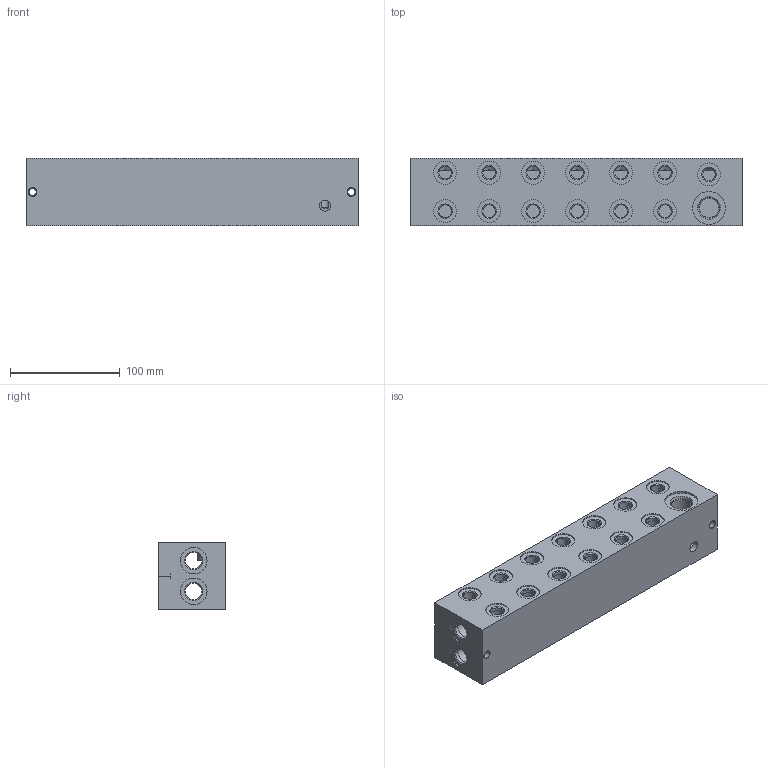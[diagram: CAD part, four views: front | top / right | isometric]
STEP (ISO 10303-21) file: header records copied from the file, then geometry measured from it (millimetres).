
FILE_DESCRIPTION((''),'2;1');
FILE_NAME('760_6960','2015-11-27T',('Ahcz.brigadnik05'),(''),'PRO/ENGINEER BY PARAMETRIC TECHNOLOGY CORPORATION, 2015110','PRO/ENGINEER BY PARAMETRIC TECHNOLOGY CORPORATION, 2015110','');
FILE_SCHEMA(('AUTOMOTIVE_DESIGN { 1 0 10303 214 1 1 1 1 }'));
Length unit declared in the file: millimetre
Products named in the file (1): 760_6960
Bounding box: 302 x 61 x 61 mm (x, y, z)
Volume: 419114.3 mm3; surface area: 166610.9 mm2
Topology: 1 solids, 49 shells, 434 faces, 2164 edges, 2045 vertices
Faces by surface type: cylinder 293, plane 84, cone 57
Entity records: 23845 total; most frequent: CARTESIAN_POINT 4927, DIRECTION 3610, ORIENTED_EDGE 2234, VECTOR 1368, LINE 1368, EDGE_CURVE 1213, AXIS2_PLACEMENT_3D 1121, TRIMMED_CURVE 946
